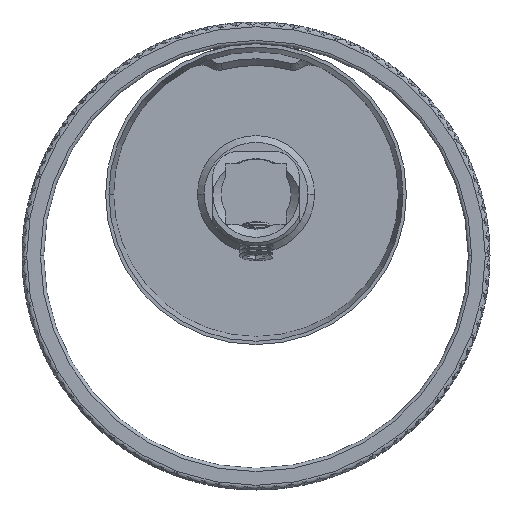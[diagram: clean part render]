
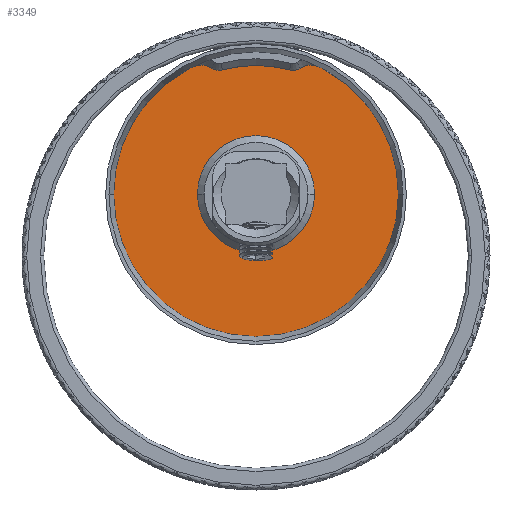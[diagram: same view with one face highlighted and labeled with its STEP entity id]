
A CAD part, front view. The second image highlights one B-rep face of the part: STEP entity #3349.
In plain terms, the highlighted planar face has unit normal (0, -1, 0).
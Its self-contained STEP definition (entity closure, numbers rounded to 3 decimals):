
#216=CARTESIAN_POINT('',(0.,10.5,0.));
#217=DIRECTION('',(0.,-1.,0.));
#218=DIRECTION('',(1.,0.,0.));
#219=AXIS2_PLACEMENT_3D('',#216,#217,#218);
#221=CARTESIAN_POINT('',(0.,10.5,0.));
#222=DIRECTION('',(0.,1.,0.));
#223=DIRECTION('',(1.,0.,0.));
#224=AXIS2_PLACEMENT_3D('',#221,#222,#223);
#226=CARTESIAN_POINT('',(-8.267,10.5,16.326));
#227=DIRECTION('',(0.,-1.,0.));
#228=DIRECTION('',(0.546,0.,0.838));
#229=AXIS2_PLACEMENT_3D('',#226,#227,#228);
#231=CARTESIAN_POINT('',(0.,10.5,0.));
#232=DIRECTION('',(0.,-1.,0.));
#233=DIRECTION('',(0.261,0.,0.965));
#234=AXIS2_PLACEMENT_3D('',#231,#232,#233);
#236=CARTESIAN_POINT('',(8.267,10.5,16.326));
#237=DIRECTION('',(0.,-1.,0.));
#238=DIRECTION('',(0.452,0.,0.892));
#239=AXIS2_PLACEMENT_3D('',#236,#237,#238);
#293=CARTESIAN_POINT('',(0.,10.5,0.));
#294=DIRECTION('',(0.,-1.,0.));
#295=DIRECTION('',(1.,0.,0.));
#296=AXIS2_PLACEMENT_3D('',#293,#294,#295);
#306=CARTESIAN_POINT('',(0.,10.5,0.));
#307=DIRECTION('',(0.,-1.,0.));
#308=DIRECTION('',(-0.452,0.,0.892));
#309=AXIS2_PLACEMENT_3D('',#306,#307,#308);
#328=CARTESIAN_POINT('',(0.,10.5,0.));
#329=DIRECTION('',(0.,1.,0.));
#330=DIRECTION('',(1.,0.,0.));
#331=AXIS2_PLACEMENT_3D('',#328,#329,#330);
#710=CARTESIAN_POINT('',(-5.538,10.5,20.516));
#711=DIRECTION('',(0.,1.,0.));
#712=DIRECTION('',(0.261,0.,-0.965));
#713=AXIS2_PLACEMENT_3D('',#710,#711,#712);
#1584=CARTESIAN_POINT('',(5.538,10.5,20.516));
#1585=DIRECTION('',(0.,1.,0.));
#1586=DIRECTION('',(0.546,0.,-0.838));
#1587=AXIS2_PLACEMENT_3D('',#1584,#1585,#1586);
#2747=CARTESIAN_POINT('',(21.3,10.5,0.));
#2748=CARTESIAN_POINT('',(-21.3,10.5,0.));
#2749=VERTEX_POINT('',#2747);
#2750=VERTEX_POINT('',#2748);
#2816=CARTESIAN_POINT('',(8.75,10.5,0.));
#2818=VERTEX_POINT('',#2816);
#2820=CARTESIAN_POINT('',(-8.75,10.5,0.));
#2822=VERTEX_POINT('',#2820);
#2889=CARTESIAN_POINT('',(-6.63,10.5,18.84));
#2890=CARTESIAN_POINT('',(-9.622,10.5,19.003));
#2891=VERTEX_POINT('',#2889);
#2892=VERTEX_POINT('',#2890);
#2893=CARTESIAN_POINT('',(9.622,10.5,19.003));
#2894=CARTESIAN_POINT('',(6.63,10.5,18.84));
#2895=VERTEX_POINT('',#2893);
#2896=VERTEX_POINT('',#2894);
#2897=CARTESIAN_POINT('',(5.017,10.5,18.585));
#2898=CARTESIAN_POINT('',(-5.017,10.5,18.585));
#2899=VERTEX_POINT('',#2897);
#2900=VERTEX_POINT('',#2898);
#3322=CARTESIAN_POINT('',(0.,10.5,0.));
#3323=DIRECTION('',(0.,-1.,0.));
#3324=DIRECTION('',(-1.,0.,0.));
#3325=AXIS2_PLACEMENT_3D('',#3322,#3323,#3324);
#3326=PLANE('',#3325);
#3328=ORIENTED_EDGE('',*,*,#3327,.F.);
#3330=ORIENTED_EDGE('',*,*,#3329,.F.);
#3332=ORIENTED_EDGE('',*,*,#3331,.F.);
#3334=ORIENTED_EDGE('',*,*,#3333,.F.);
#3336=ORIENTED_EDGE('',*,*,#3335,.F.);
#3338=ORIENTED_EDGE('',*,*,#3337,.F.);
#3340=ORIENTED_EDGE('',*,*,#3339,.T.);
#3342=ORIENTED_EDGE('',*,*,#3341,.F.);
#3343=EDGE_LOOP('',(#3328,#3330,#3332,#3334,#3336,#3338,#3340,#3342));
#3344=FACE_OUTER_BOUND('',#3343,.F.);
#3345=ORIENTED_EDGE('',*,*,#3304,.T.);
#3346=ORIENTED_EDGE('',*,*,#3315,.F.);
#3347=EDGE_LOOP('',(#3345,#3346));
#3348=FACE_BOUND('',#3347,.F.);
#220=CIRCLE('',#219,8.75);
#225=CIRCLE('',#224,8.75);
#230=CIRCLE('',#229,3.);
#235=CIRCLE('',#234,19.25);
#240=CIRCLE('',#239,3.);
#297=CIRCLE('',#296,21.3);
#310=CIRCLE('',#309,21.3);
#332=CIRCLE('',#331,21.3);
#714=CIRCLE('',#713,2.);
#1588=CIRCLE('',#1587,2.);
#3304=EDGE_CURVE('',#2818,#2822,#220,.T.);
#3315=EDGE_CURVE('',#2818,#2822,#225,.T.);
#3327=EDGE_CURVE('',#2891,#2892,#230,.T.);
#3329=EDGE_CURVE('',#2900,#2891,#714,.T.);
#3331=EDGE_CURVE('',#2899,#2900,#235,.T.);
#3333=EDGE_CURVE('',#2896,#2899,#1588,.T.);
#3335=EDGE_CURVE('',#2895,#2896,#240,.T.);
#3337=EDGE_CURVE('',#2749,#2895,#297,.T.);
#3339=EDGE_CURVE('',#2749,#2750,#332,.T.);
#3341=EDGE_CURVE('',#2892,#2750,#310,.T.);
#3349=ADVANCED_FACE('',(#3344,#3348),#3326,.T.);
